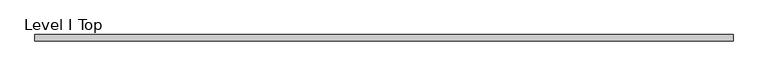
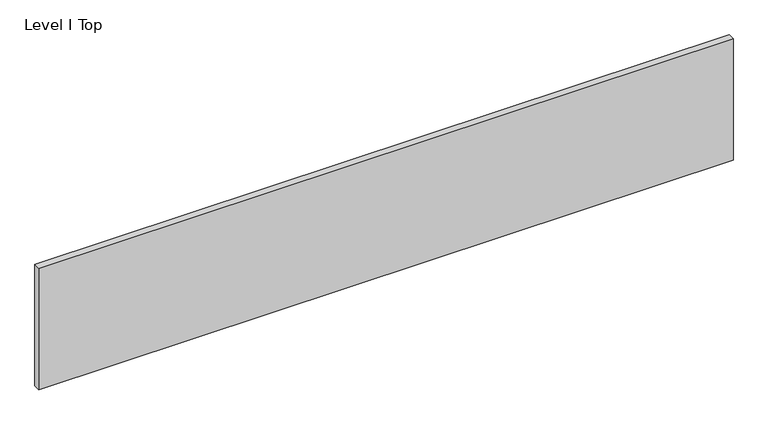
"""IFC4 building model written with IfcOpenShell, lengths in millimetres: proxy geometry, Panel-Fascia-Teknion-Altos-Landscape : Level I Top."""

import ifcopenshell
import ifcopenshell.guid

model = None  # the IFC model being written
_history = None  # IfcOwnerHistory: only IFC2X3 demands one
_inside = {}  # id of a spatial element -> (the spatial element, [elements in it])
_under = {}  # id of a project, library or spatial element -> (it, [spatial elements below it])
_declared = {}  # id of a project -> (the project, [libraries it declares])
_typed = {}  # id of a type object -> (the type object, [elements of that type])
_made_of = {}  # id of a material, layer set ... -> (it, [elements and type objects made of it])


def new_model(schema):
    """Start an empty IFC model of exactly this schema.

    Asked for "IFC4X3", IfcOpenShell would pick the latest addendum, in which some entities
    have other attributes; the version numbers below select the first issue.
    IFC2X3 requires an IfcOwnerHistory on every rooted entity: one is made here for all.
    """
    global model, _history
    if schema == "IFC4X3":
        model = ifcopenshell.file(schema_version=(4, 3, 0, 0))
    else:
        model = ifcopenshell.file(schema=schema)
    _inside.clear()
    _under.clear()
    _declared.clear()
    _typed.clear()
    _made_of.clear()
    _history = None
    if model.schema == "IFC2X3":
        org = make("IfcOrganization", Name="unknown")
        user = make(
            "IfcPersonAndOrganization",
            ThePerson=make("IfcPerson", FamilyName="unknown"),
            TheOrganization=org,
        )
        app = make(
            "IfcApplication",
            ApplicationDeveloper=org,
            Version="unknown",
            ApplicationFullName="unknown",
            ApplicationIdentifier="unknown",
        )
        _history = make(
            "IfcOwnerHistory",
            OwningUser=user,
            OwningApplication=app,
            ChangeAction="ADDED",
            CreationDate=0,
        )
    return model


def make(cls, **values):
    """One entity of the class cls with the attributes given. An attribute that is None is left unset."""
    return model.create_entity(
        cls, **{name: value for name, value in values.items() if value is not None}
    )


def rooted(cls, **values):
    """An entity with a GlobalId (a new one), such as an element, a storey or a relation."""
    return make(cls, GlobalId=ifcopenshell.guid.new(), OwnerHistory=_history, **values)


def si_unit(unit_type, name, prefix=None):
    """IfcSIUnit, for example si_unit("LENGTHUNIT", "METRE", prefix="MILLI")."""
    return make("IfcSIUnit", UnitType=unit_type, Prefix=prefix, Name=name)


def assignment(units):
    """IfcUnitAssignment: the units of a project."""
    return None if units is None else make("IfcUnitAssignment", Units=units)


def point(xyz):
    """IfcCartesianPoint."""
    return None if xyz is None else make("IfcCartesianPoint", Coordinates=xyz)


def direction(xyz):
    """IfcDirection."""
    return None if xyz is None else make("IfcDirection", DirectionRatios=xyz)


def frame(location, z_axis=None, x_axis=None):
    """IfcAxis2Placement3D, a coordinate frame: its origin and axes. An axis left out is left unset."""
    return make(
        "IfcAxis2Placement3D",
        Location=point(location),
        Axis=direction(z_axis),
        RefDirection=direction(x_axis),
    )


def origin():
    """The frame at (0, 0, 0) with its axes left unset."""
    return frame((0.0, 0.0, 0.0))


def place(relative_to, where):
    """IfcLocalPlacement: puts the frame where relative to a parent placement (None: the world)."""
    return make(
        "IfcLocalPlacement", PlacementRelTo=relative_to, RelativePlacement=where
    )


def context(
    kind, dimensions, precision=None, world=None, true_north=None, identifier=None
):
    """IfcGeometricRepresentationContext, for example the 3D "Model" context."""
    return make(
        "IfcGeometricRepresentationContext",
        ContextIdentifier=identifier,
        ContextType=kind,
        CoordinateSpaceDimension=dimensions,
        Precision=precision,
        WorldCoordinateSystem=world,
        TrueNorth=true_north,
    )


def project(units=None, contexts=None):
    """IfcProject with its units and contexts."""
    return rooted(
        "IfcProject",
        Name="project",
        RepresentationContexts=contexts,
        UnitsInContext=assignment(units),
    )


def spatial(cls, under=None, at=None, **own):
    """A site, building, storey or space (cls), placed at a placement, below another one or the project."""
    s = rooted(cls, ObjectPlacement=at, **own)
    if under is not None:
        _under.setdefault(under.id(), (under, []))[1].append(s)
    return s


def polyline(points):
    """IfcPolyline through the points."""
    return make("IfcPolyline", Points=[point(p) for p in points])


def outline(outer, holes=None, kind="AREA"):
    """IfcArbitraryClosedProfileDef: a profile drawn as a closed curve; with holes, ...WithVoids."""
    if holes is None:
        return make("IfcArbitraryClosedProfileDef", ProfileType=kind, OuterCurve=outer)
    return make(
        "IfcArbitraryProfileDefWithVoids",
        ProfileType=kind,
        OuterCurve=outer,
        InnerCurves=holes,
    )


def extrude(swept, where, along, depth):
    """IfcExtrudedAreaSolid: the profile swept, set in the frame where, extruded along a direction by depth."""
    return make(
        "IfcExtrudedAreaSolid",
        SweptArea=swept,
        Position=where,
        ExtrudedDirection=direction(along),
        Depth=depth,
    )


def shape(context_of_items, identifier, shape_type, items):
    """IfcShapeRepresentation: the items that make up one representation, for example the "Body"."""
    return make(
        "IfcShapeRepresentation",
        ContextOfItems=context_of_items,
        RepresentationIdentifier=identifier,
        RepresentationType=shape_type,
        Items=items,
    )


def source(mapping_origin, context_of_items, identifier, shape_type, items):
    """IfcRepresentationMap: a shape defined once, which mapped items show again and again."""
    return make(
        "IfcRepresentationMap",
        MappingOrigin=mapping_origin,
        MappedRepresentation=shape(context_of_items, identifier, shape_type, items),
    )


def transform(
    local_origin,
    x_axis=None,
    y_axis=None,
    z_axis=None,
    scale=None,
    scale2=None,
    scale3=None,
    uniform=True,
):
    """IfcCartesianTransformationOperator3D, or its non-uniform kind. x_axis, y_axis, z_axis: its Axis1, 2, 3."""
    if uniform:
        return make(
            "IfcCartesianTransformationOperator3D",
            Axis1=direction(x_axis),
            Axis2=direction(y_axis),
            LocalOrigin=point(local_origin),
            Scale=scale,
            Axis3=direction(z_axis),
        )
    return make(
        "IfcCartesianTransformationOperator3DnonUniform",
        Axis1=direction(x_axis),
        Axis2=direction(y_axis),
        LocalOrigin=point(local_origin),
        Scale=scale,
        Axis3=direction(z_axis),
        Scale2=scale2,
        Scale3=scale3,
    )


def mapped(mapping_source, mapping_target):
    """IfcMappedItem: shows the shape of a source again, moved by a transform."""
    return make(
        "IfcMappedItem", MappingSource=mapping_source, MappingTarget=mapping_target
    )


def made_of(thing, what):
    """Note that an element or type object is made of a material, layer set ...; save() writes the relation."""
    if what is not None:
        _made_of.setdefault(what.id(), (what, []))[1].append(thing)
    return thing


def element(
    cls,
    number,
    at=None,
    inside=None,
    cuts=None,
    type_object=None,
    material=None,
    context=None,
    identifier="Body",
    shape_type=None,
    held_by="IfcProductDefinitionShape",
    body=None,
    shapes=None,
    **own,
):
    """One element of the class cls, such as IfcWall. Its Tag is "e" and its number.

    at: its placement. inside: the storey or other place that contains it. cuts: it is an
    opening in that element (IfcRelVoidsElement). A single representation is given by context,
    identifier, shape_type and body (its items); several are given by shapes. held_by: the class
    of the entity that holds the representations. save() writes the other relations.
    """
    e = rooted(cls, Tag="e%d" % number, ObjectPlacement=at, **own)
    if body is not None:
        shapes = [shape(context, identifier, shape_type, body)]
    if shapes is not None:
        e.Representation = make(held_by, Representations=shapes)
    if inside is not None:
        _inside.setdefault(inside.id(), (inside, []))[1].append(e)
    if cuts is not None:
        rooted(
            "IfcRelVoidsElement", RelatingBuildingElement=cuts, RelatedOpeningElement=e
        )
    if type_object is not None:
        _typed.setdefault(type_object.id(), (type_object, []))[1].append(e)
    return made_of(e, material)


def aggregate(whole, parts):
    """IfcRelAggregates: a whole, such as a stair, and the parts it consists of."""
    return rooted("IfcRelAggregates", RelatingObject=whole, RelatedObjects=parts)


def save(model, path):
    """Write the relations noted so far, then the file.

    IfcRelAggregates (storeys below a building ...), IfcRelContainedInSpatialStructure (elements
    in a storey), IfcRelDefinesByType, IfcRelAssociatesMaterial and IfcRelDeclares: one each for
    every whole, place, type object, material and project.
    """
    for whole, parts in _under.values():
        aggregate(whole, parts)
    for where, things in _inside.values():
        rooted(
            "IfcRelContainedInSpatialStructure",
            RelatedElements=things,
            RelatingStructure=where,
        )
    for kind, things in _typed.values():
        rooted("IfcRelDefinesByType", RelatedObjects=things, RelatingType=kind)
    for what, things in _made_of.values():
        rooted("IfcRelAssociatesMaterial", RelatedObjects=things, RelatingMaterial=what)
    for by, libraries in _declared.values():
        rooted("IfcRelDeclares", RelatingContext=by, RelatedDefinitions=libraries)
    model.write(path)


def level_i_top_09e36e50(model_context):
    return source(origin(), model_context, "Body", "SweptSolid", [
        extrude(outline(polyline([(1012.8305563, -9.525), (-1012.8305562, -9.525), (-1012.8305562, 9.525), (1012.8305563, 9.525), (1012.8305563, -9.525)])), frame((0.0, 0.0, 3.175), z_axis=(0.0, 0.0, 1.0), x_axis=(1.0, 0.0, 0.0)), (0.0, 0.0, 1.0), 374.65),
    ])


if __name__ == "__main__":
    model = new_model("IFC4")
    model_context = context("Model", 3, world=origin())
    ifc_project = project(units=[si_unit("LENGTHUNIT", "METRE", prefix="MILLI")], contexts=[model_context])
    site = spatial("IfcSite", under=ifc_project)
    building = spatial("IfcBuilding", under=site)
    placement = place(None, origin())
    level_i_top_shape = level_i_top_09e36e50(model_context)
    element("IfcBuildingElementProxy", 1, Name="Panel-Fascia-Teknion-Altos-Landscape : Level I Top", ObjectType="Panel-Fascia-Teknion-Altos-Landscape : Level I Top", at=placement, inside=building, context=model_context, shape_type="MappedRepresentation", body=[
        mapped(level_i_top_shape, transform((0.0, 0.0, 0.0), x_axis=(1.0, 0.0, 0.0), y_axis=(0.0, 1.0, 0.0), z_axis=(0.0, 0.0, 1.0))),
    ])
    save(model, "model.ifc")
